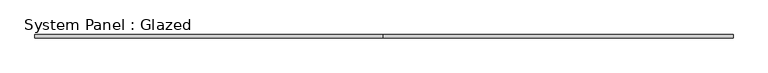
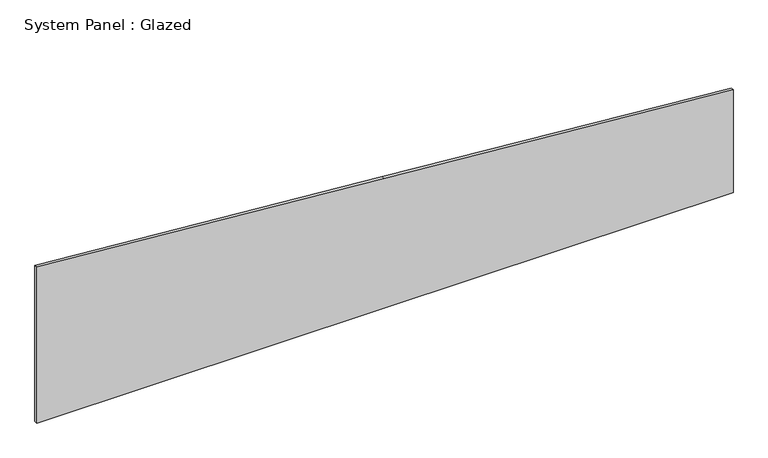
"""IFC4 building model written with IfcOpenShell, lengths in millimetres: plate geometry, System Panel : Glazed."""

from ifc_helpers import new_model, si_unit, frame, origin, place, context, project, spatial, polyline, outline, extrude, source, transform, mapped, element, save


def system_panel_glazed_5e888308(model_context):
    return source(origin(), model_context, "Body", "SweptSolid", [
        extrude(outline(polyline([(0.0, -1091.247727), (0.0, 0.0), (0.0, 1091.247727), (341.6106536, 1091.247727), (429.8462399, -2.4125356), (517.6925435, -1091.247727), (0.0, -1091.247727)])), frame((0.0, -5.0, 0.0), z_axis=(0.0, 1.0, 0.0), x_axis=(0.0, 0.0, 1.0)), (0.0, 0.0, 1.0), 10.0),
    ])


if __name__ == "__main__":
    model = new_model("IFC4")
    model_context = context("Model", 3, world=origin())
    ifc_project = project(units=[si_unit("LENGTHUNIT", "METRE", prefix="MILLI")], contexts=[model_context])
    site = spatial("IfcSite", under=ifc_project)
    building = spatial("IfcBuilding", under=site)
    placement = place(None, origin())
    system_panel_glazed_shape = system_panel_glazed_5e888308(model_context)
    element("IfcPlate", 1, ObjectType="System Panel : Glazed", at=placement, inside=building, context=model_context, shape_type="MappedRepresentation", body=[
        mapped(system_panel_glazed_shape, transform((0.0, 0.0, 0.0), x_axis=(1.0, 0.0, 0.0), y_axis=(0.0, 1.0, 0.0), z_axis=(0.0, 0.0, 1.0))),
    ])
    save(model, "model.ifc")
